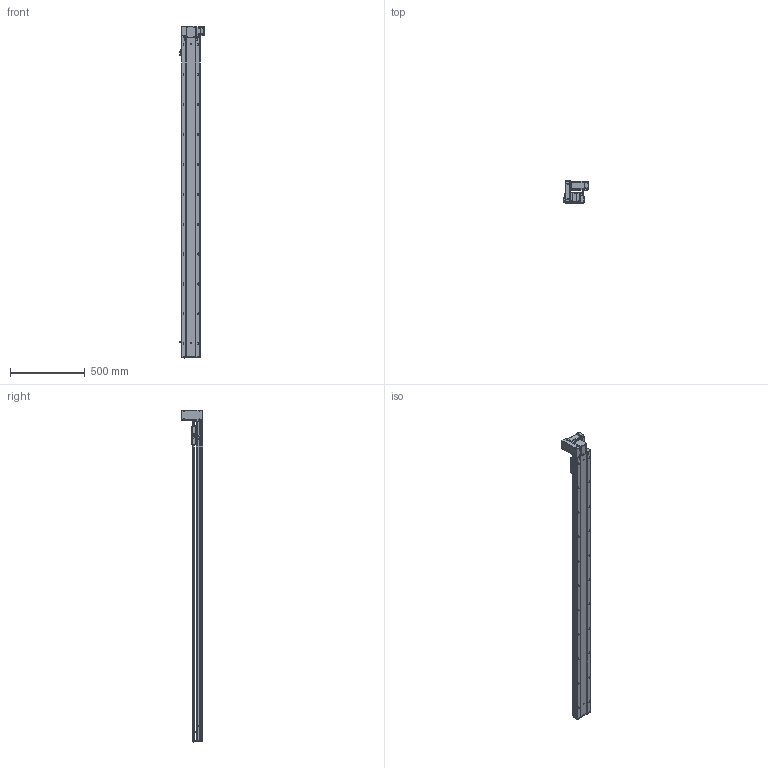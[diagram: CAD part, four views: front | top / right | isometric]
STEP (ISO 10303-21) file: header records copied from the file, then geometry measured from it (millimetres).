
FILE_DESCRIPTION (( 'STEP AP203' ), '1' );
FILE_NAME ('RY120-T-300-UL.SLDASM_1900.step', '2021-03-01T05:37:44', ( '盈信电脑' ), ( '东莞市道滘镇水果街19号' ), 'SwSTEP 2.0', 'SolidWorks 2012', '' );
FILE_SCHEMA (( 'CONFIG_CONTROL_DESIGN' ));
Length unit declared in the file: millimetre
Products named in the file (18): RY120-T萇儂欶; RY120-T-300-UL.SLDASM_1900; RY120-T蹟翐M4; RY120-T翋肮祭謫裔啣; RY120-T主同步轮轴承压盖; 侂狟400W侜督萇儂; 15; 滅袉蝶18-10; RY120-T肮祭湍揤踡輸2; RY120-T萇儂假蚾啣; RY120-T翋肮祭盓傅釱; RY120-T肮祭湍揤踡輸1; 覜茼ん672; RY120綴裔啣; RY120外置感应片(140共用）; RY120-T-300-UL倰第奻裔啣_1900; RY120肮祭湍臏賑輸; RY120-T-300-UL倰第菁釱_1900
Assembly tree (23 placements, depth 3):
  RY120-T-300-UL.SLDASM_1900
    RY120-T-300-UL倰第菁釱_1900
    RY120-T-300-UL倰第奻裔啣_1900
    RY120肮祭湍臏賑輸
    RY120綴裔啣
    覜茼ん672  x3
    RY120外置感应片(140共用）
    RY120-T肮祭湍揤踡輸1
    RY120-T肮祭湍揤踡輸2
    RY120-T翋肮祭盓傅釱
    RY120-T萇儂假蚾啣
    侂狟400W侜督萇儂
      15
    RY120-T主同步轮轴承压盖
    滅袉蝶18-10  x2
    RY120-T萇儂欶
    RY120-T蹟翐M4  x4
    RY120-T翋肮祭謫裔啣
Bounding box: 164.2 x 146 x 2221 mm (x, y, z)
Volume: 5586801.1 mm3; surface area: 2131775.6 mm2
Topology: 23 solids, 23 shells, 3108 faces, 8508 edges, 5422 vertices
Faces by surface type: plane 1452, cylinder 1246, cone 321, bspline 89
Entity records: 100170 total; most frequent: CARTESIAN_POINT 26198, ORIENTED_EDGE 15312, DIRECTION 14434, EDGE_CURVE 7656, VERTEX_POINT 5009, AXIS2_PLACEMENT_3D 4905, VECTOR 4624, LINE 4624
